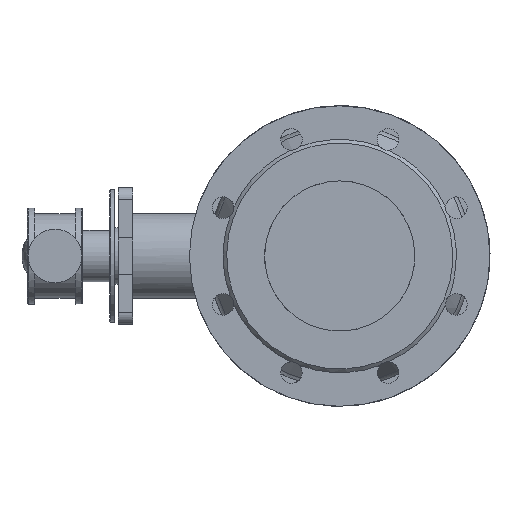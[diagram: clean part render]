
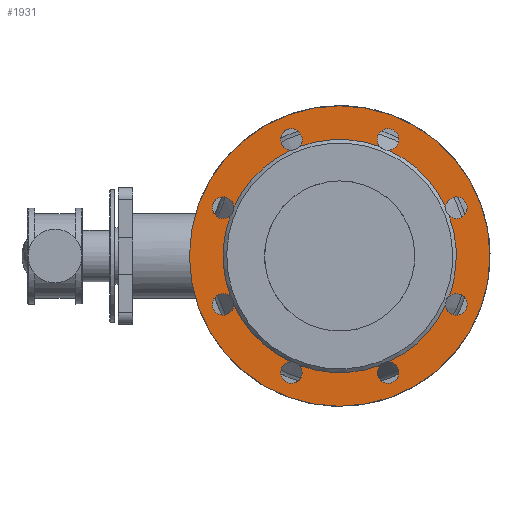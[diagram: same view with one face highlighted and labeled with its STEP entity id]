
A CAD part, left-side view. The second image highlights one B-rep face of the part: STEP entity #1931.
In plain terms, the highlighted planar face has unit normal (-1, 0, 0).
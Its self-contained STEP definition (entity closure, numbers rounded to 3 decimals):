
#1931=ADVANCED_FACE('',(#10886,#10888),#10890,.T.);
#10886=FACE_BOUND('',#10887,.T.);
#10887=EDGE_LOOP('',(#18482));
#10888=FACE_BOUND('',#10889,.T.);
#10889=EDGE_LOOP('',(#18483,#18484,#18485,#18486,#18487,#18488,#18489,#18490,#18491,
#18492,#18493,#18494,#18495,#18496,#18497,#18498,#18499,#18500,#18501,#18502,#18503,
#18504));
#10890=PLANE('',#10891);
#10891=AXIS2_PLACEMENT_3D('',#10892,#10893,#10894);
#10892=CARTESIAN_POINT('',(52.804,26.49,-220.688));
#10893=DIRECTION('',(-1.,0.,0.));
#10894=DIRECTION('',(0.,0.,1.));
#18482=ORIENTED_EDGE('',*,*,#23944,.F.);
#18483=ORIENTED_EDGE('',*,*,#23898,.T.);
#18484=ORIENTED_EDGE('',*,*,#23897,.T.);
#18485=ORIENTED_EDGE('',*,*,#23945,.T.);
#18486=ORIENTED_EDGE('',*,*,#23902,.T.);
#18487=ORIENTED_EDGE('',*,*,#23901,.T.);
#18488=ORIENTED_EDGE('',*,*,#23946,.T.);
#18489=ORIENTED_EDGE('',*,*,#23909,.T.);
#18490=ORIENTED_EDGE('',*,*,#23911,.T.);
#18491=ORIENTED_EDGE('',*,*,#23947,.T.);
#18492=ORIENTED_EDGE('',*,*,#23905,.T.);
#18493=ORIENTED_EDGE('',*,*,#23948,.T.);
#18494=ORIENTED_EDGE('',*,*,#23915,.T.);
#18495=ORIENTED_EDGE('',*,*,#23949,.T.);
#18496=ORIENTED_EDGE('',*,*,#23919,.T.);
#18497=ORIENTED_EDGE('',*,*,#23950,.T.);
#18498=ORIENTED_EDGE('',*,*,#23923,.T.);
#18499=ORIENTED_EDGE('',*,*,#23922,.T.);
#18500=ORIENTED_EDGE('',*,*,#23951,.T.);
#18501=ORIENTED_EDGE('',*,*,#23927,.T.);
#18502=ORIENTED_EDGE('',*,*,#23926,.T.);
#18503=ORIENTED_EDGE('',*,*,#23952,.T.);
#18504=ORIENTED_EDGE('',*,*,#23953,.T.);
#23897=EDGE_CURVE('',#27889,#27890,#27891,.T.);
#23898=EDGE_CURVE('',#27892,#27889,#27893,.T.);
#23901=EDGE_CURVE('',#27897,#27898,#27899,.T.);
#23902=EDGE_CURVE('',#27900,#27897,#27901,.T.);
#23905=EDGE_CURVE('',#27905,#27906,#27907,.T.);
#23909=EDGE_CURVE('',#27913,#27914,#27915,.T.);
#23911=EDGE_CURVE('',#27914,#27916,#27918,.T.);
#23915=EDGE_CURVE('',#27922,#27924,#27926,.T.);
#23919=EDGE_CURVE('',#27930,#27932,#27934,.T.);
#23922=EDGE_CURVE('',#27940,#27937,#27941,.T.);
#23923=EDGE_CURVE('',#27938,#27940,#27942,.T.);
#23926=EDGE_CURVE('',#27948,#27945,#27949,.T.);
#23927=EDGE_CURVE('',#27946,#27948,#27950,.T.);
#23944=EDGE_CURVE('',#27983,#27983,#27984,.T.);
#23945=EDGE_CURVE('',#27890,#27900,#27985,.T.);
#23946=EDGE_CURVE('',#27898,#27913,#27986,.T.);
#23947=EDGE_CURVE('',#27916,#27905,#27987,.T.);
#23948=EDGE_CURVE('',#27906,#27922,#27988,.T.);
#23949=EDGE_CURVE('',#27924,#27930,#27989,.T.);
#23950=EDGE_CURVE('',#27932,#27938,#27990,.T.);
#23951=EDGE_CURVE('',#27937,#27946,#27991,.T.);
#23952=EDGE_CURVE('',#27945,#27992,#27993,.T.);
#23953=EDGE_CURVE('',#27992,#27892,#27994,.T.);
#27889=VERTEX_POINT('',#39134);
#27890=VERTEX_POINT('',#39135);
#27891=CIRCLE('',#39136,9.);
#27892=VERTEX_POINT('',#39140);
#27893=CIRCLE('',#39141,9.);
#27897=VERTEX_POINT('',#39227);
#27898=VERTEX_POINT('',#39228);
#27899=CIRCLE('',#39229,9.);
#27900=VERTEX_POINT('',#39233);
#27901=CIRCLE('',#39234,9.);
#27905=VERTEX_POINT('',#39320);
#27906=VERTEX_POINT('',#39321);
#27907=CIRCLE('',#39322,9.);
#27913=VERTEX_POINT('',#39420);
#27914=VERTEX_POINT('',#39421);
#27915=CIRCLE('',#39422,9.);
#27916=VERTEX_POINT('',#39426);
#27918=CIRCLE('',#39504,9.);
#27922=VERTEX_POINT('',#39514);
#27924=VERTEX_POINT('',#39542);
#27926=CIRCLE('',#39593,9.);
#27930=VERTEX_POINT('',#39603);
#27932=VERTEX_POINT('',#39681);
#27934=CIRCLE('',#39693,9.);
#27937=VERTEX_POINT('',#39702);
#27938=VERTEX_POINT('',#39703);
#27940=VERTEX_POINT('',#39781);
#27941=CIRCLE('',#39782,9.);
#27942=CIRCLE('',#39786,9.);
#27945=VERTEX_POINT('',#39795);
#27946=VERTEX_POINT('',#39796);
#27948=VERTEX_POINT('',#39874);
#27949=CIRCLE('',#39875,9.);
#27950=CIRCLE('',#39879,9.);
#27983=VERTEX_POINT('',#40255);
#27984=CIRCLE('',#40256,125.);
#27985=CIRCLE('',#40260,97.);
#27986=CIRCLE('',#40264,97.);
#27987=CIRCLE('',#40268,97.);
#27988=CIRCLE('',#40272,97.);
#27989=CIRCLE('',#40276,97.);
#27990=CIRCLE('',#40280,97.);
#27991=CIRCLE('',#40284,97.);
#27992=VERTEX_POINT('',#40288);
#27993=CIRCLE('',#40289,97.);
#27994=CIRCLE('',#40293,97.);
#39134=CARTESIAN_POINT('',(52.804,58.188,-269.071));
#39135=CARTESIAN_POINT('',(52.804,63.465,-261.437));
#39136=AXIS2_PLACEMENT_3D('',#39137,#39138,#39139);
#39137=CARTESIAN_POINT('',(52.804,54.483,-260.869));
#39138=DIRECTION('',(1.,0.,0.));
#39139=DIRECTION('',(0.,0.412,-0.911));
#39140=CARTESIAN_POINT('',(52.804,60.433,-254.116));
#39141=AXIS2_PLACEMENT_3D('',#39142,#39143,#39144);
#39142=CARTESIAN_POINT('',(52.804,54.483,-260.869));
#39143=DIRECTION('',(1.,0.,0.));
#39144=DIRECTION('',(0.,0.661,0.75));
#39227=CARTESIAN_POINT('',(52.804,117.87,-323.855));
#39228=CARTESIAN_POINT('',(52.804,118.062,-311.745));
#39229=AXIS2_PLACEMENT_3D('',#39230,#39231,#39232);
#39230=CARTESIAN_POINT('',(52.804,111.309,-317.695));
#39231=DIRECTION('',(1.,0.,0.));
#39232=DIRECTION('',(0.,0.729,-0.684));
#39233=CARTESIAN_POINT('',(52.804,110.741,-308.713));
#39234=AXIS2_PLACEMENT_3D('',#39235,#39236,#39237);
#39235=CARTESIAN_POINT('',(52.804,111.309,-317.695));
#39236=DIRECTION('',(1.,0.,0.));
#39237=DIRECTION('',(0.,-0.063,0.998));
#39320=CARTESIAN_POINT('',(52.804,239.516,-261.437));
#39321=CARTESIAN_POINT('',(52.804,242.548,-254.116));
#39322=AXIS2_PLACEMENT_3D('',#39323,#39324,#39325);
#39323=CARTESIAN_POINT('',(52.804,248.498,-260.869));
#39324=DIRECTION('',(1.,0.,0.));
#39325=DIRECTION('',(0.,-0.998,-0.063));
#39420=CARTESIAN_POINT('',(52.804,184.919,-311.745));
#39421=CARTESIAN_POINT('',(52.804,200.092,-320.875));
#39422=AXIS2_PLACEMENT_3D('',#39423,#39424,#39425);
#39423=CARTESIAN_POINT('',(52.804,191.672,-317.695));
#39424=DIRECTION('',(1.,0.,0.));
#39425=DIRECTION('',(0.,-0.75,0.661));
#39426=CARTESIAN_POINT('',(52.804,192.24,-308.713));
#39504=AXIS2_PLACEMENT_3D('',#39505,#39506,#39507);
#39505=CARTESIAN_POINT('',(52.804,191.672,-317.695));
#39506=DIRECTION('',(1.,0.,0.));
#39507=DIRECTION('',(0.,0.936,-0.353));
#39514=CARTESIAN_POINT('',(52.804,242.548,-187.259));
#39542=CARTESIAN_POINT('',(52.804,239.516,-179.938));
#39593=AXIS2_PLACEMENT_3D('',#39594,#39595,#39596);
#39594=CARTESIAN_POINT('',(52.804,248.498,-180.506));
#39595=DIRECTION('',(1.,0.,0.));
#39596=DIRECTION('',(0.,-0.661,-0.75));
#39603=CARTESIAN_POINT('',(52.804,192.24,-132.662));
#39681=CARTESIAN_POINT('',(52.804,184.919,-129.63));
#39693=AXIS2_PLACEMENT_3D('',#39694,#39695,#39696);
#39694=CARTESIAN_POINT('',(52.804,191.672,-123.68));
#39695=DIRECTION('',(1.,0.,0.));
#39696=DIRECTION('',(0.,0.063,-0.998));
#39702=CARTESIAN_POINT('',(52.804,110.741,-132.662));
#39703=CARTESIAN_POINT('',(52.804,118.062,-129.63));
#39781=CARTESIAN_POINT('',(52.804,108.129,-132.1));
#39782=AXIS2_PLACEMENT_3D('',#39783,#39784,#39785);
#39783=CARTESIAN_POINT('',(52.804,111.309,-123.68));
#39784=DIRECTION('',(1.,0.,0.));
#39785=DIRECTION('',(0.,-0.353,-0.936));
#39786=AXIS2_PLACEMENT_3D('',#39787,#39788,#39789);
#39787=CARTESIAN_POINT('',(52.804,111.309,-123.68));
#39788=DIRECTION('',(1.,0.,0.));
#39789=DIRECTION('',(0.,0.75,-0.661));
#39795=CARTESIAN_POINT('',(52.804,60.433,-187.259));
#39796=CARTESIAN_POINT('',(52.804,63.465,-179.938));
#39874=CARTESIAN_POINT('',(52.804,54.767,-189.501));
#39875=AXIS2_PLACEMENT_3D('',#39876,#39877,#39878);
#39876=CARTESIAN_POINT('',(52.804,54.483,-180.506));
#39877=DIRECTION('',(1.,0.,0.));
#39878=DIRECTION('',(0.,0.032,-1.));
#39879=AXIS2_PLACEMENT_3D('',#39880,#39881,#39882);
#39880=CARTESIAN_POINT('',(52.804,54.483,-180.506));
#39881=DIRECTION('',(1.,0.,0.));
#39882=DIRECTION('',(0.,0.998,0.063));
#40255=CARTESIAN_POINT('',(52.804,276.49,-220.688));
#40256=AXIS2_PLACEMENT_3D('',#40257,#40258,#40259);
#40257=CARTESIAN_POINT('',(52.804,151.49,-220.688));
#40258=DIRECTION('',(1.,0.,0.));
#40259=DIRECTION('',(0.,-1.,0.));
#40260=AXIS2_PLACEMENT_3D('',#40261,#40262,#40263);
#40261=CARTESIAN_POINT('',(52.804,151.49,-220.688));
#40262=DIRECTION('',(1.,0.,0.));
#40263=DIRECTION('',(0.,-0.907,-0.42));
#40264=AXIS2_PLACEMENT_3D('',#40265,#40266,#40267);
#40265=CARTESIAN_POINT('',(52.804,151.49,-220.688));
#40266=DIRECTION('',(1.,0.,0.));
#40267=DIRECTION('',(0.,-0.345,-0.939));
#40268=AXIS2_PLACEMENT_3D('',#40269,#40270,#40271);
#40269=CARTESIAN_POINT('',(52.804,151.49,-220.688));
#40270=DIRECTION('',(1.,0.,0.));
#40271=DIRECTION('',(0.,0.42,-0.907));
#40272=AXIS2_PLACEMENT_3D('',#40273,#40274,#40275);
#40273=CARTESIAN_POINT('',(52.804,151.49,-220.688));
#40274=DIRECTION('',(1.,0.,0.));
#40275=DIRECTION('',(0.,0.939,-0.345));
#40276=AXIS2_PLACEMENT_3D('',#40277,#40278,#40279);
#40277=CARTESIAN_POINT('',(52.804,151.49,-220.688));
#40278=DIRECTION('',(1.,0.,0.));
#40279=DIRECTION('',(0.,0.907,0.42));
#40280=AXIS2_PLACEMENT_3D('',#40281,#40282,#40283);
#40281=CARTESIAN_POINT('',(52.804,151.49,-220.688));
#40282=DIRECTION('',(1.,0.,0.));
#40283=DIRECTION('',(0.,0.345,0.939));
#40284=AXIS2_PLACEMENT_3D('',#40285,#40286,#40287);
#40285=CARTESIAN_POINT('',(52.804,151.49,-220.688));
#40286=DIRECTION('',(1.,0.,0.));
#40287=DIRECTION('',(0.,-0.42,0.907));
#40288=CARTESIAN_POINT('',(52.804,56.761,-241.551));
#40289=AXIS2_PLACEMENT_3D('',#40290,#40291,#40292);
#40290=CARTESIAN_POINT('',(52.804,151.49,-220.688));
#40291=DIRECTION('',(1.,0.,0.));
#40292=DIRECTION('',(0.,-0.939,0.345));
#40293=AXIS2_PLACEMENT_3D('',#40294,#40295,#40296);
#40294=CARTESIAN_POINT('',(52.804,151.49,-220.688));
#40295=DIRECTION('',(1.,0.,0.));
#40296=DIRECTION('',(0.,-0.977,-0.215));
